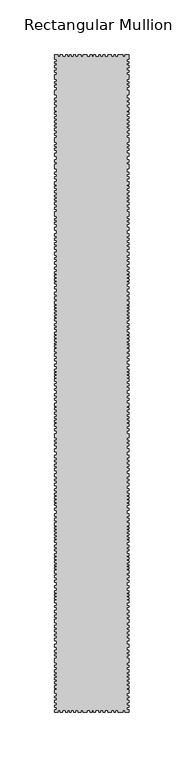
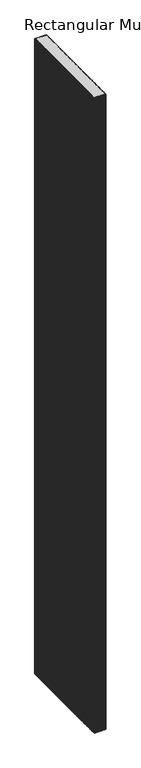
"""IFC4 building model written with IfcOpenShell, lengths in millimetres: member geometry, Rectangular Mullion : DucoSun Cubic Design louvre 600."""

from ifc_helpers import new_model, si_unit, frame, origin, place, context, project, spatial, polyline, outline, extrude, source, transform, mapped, element, save


def rectangular_mullion_b2dc265e(model_context):
    return source(origin(), model_context, "Body", "SweptSolid", [
        extrude(outline(polyline([(34.0, -597.3782451), (34.0, -600.0), (30.4544414, -600.0), (30.4544414, -598.0), (28.627942, -598.0), (28.627942, -600.0), (23.9842994, -600.0), (23.9842994, -598.0), (21.8172663, -598.0), (21.8172663, -600.0), (20.3003431, -600.0), (20.3003431, -598.0), (17.9475642, -598.0), (17.9475642, -600.0), (14.8827601, -600.0), (14.8827601, -598.0), (12.0965746, -598.0), (12.0965746, -600.0), (10.3939057, -600.0), (10.3939057, -598.0), (8.0101692, -598.0), (8.0101692, -600.0), (6.5242036, -600.0), (6.5242036, -598.0), (3.4884678, -598.0), (3.4884678, -600.0), (1.7094289, -600.0), (1.7094289, -598.0), (0.0, -598.0), (0.0, -600.0), (-1.8486488, -600.0), (-1.8486488, -598.0), (-4.2128978, -598.0), (-4.2128978, -600.0), (-7.9816511, -600.0), (-7.9816511, -598.0), (-10.0415908, -598.0), (-10.0415908, -600.0), (-12.7335575, -600.0), (-12.7335575, -598.0), (-15.0041729, -598.0), (-15.0041729, -600.0), (-16.8768453, -600.0), (-16.8768453, -598.0), (-18.9367851, -598.0), (-18.9367851, -600.0), (-20.2710642, -600.0), (-20.2710642, -598.0), (-22.3075955, -598.0), (-22.3075955, -600.0), (-23.8993671, -600.0), (-23.8993671, -598.0), (-26.9658683, -598.0), (-26.9658683, -600.0), (-28.9321744, -600.0), (-28.9321744, -598.0), (-30.8750721, -598.0), (-30.8750721, -600.0), (-34.0, -600.0), (-34.0, -597.3782451), (-32.0, -597.3782451), (-32.0, -595.4241521), (-34.0, -595.4241521), (-34.0, -593.6532553), (-32.0, -593.6532553), (-32.0, -590.9460223), (-34.0, -590.9460223), (-34.0, -588.9105087), (-32.0, -588.9105087), (-32.0, -586.7121541), (-34.0, -586.7121541), (-34.0, -585.0023227), (-32.0, -585.0023227), (-32.0, -582.3561551), (-34.0, -582.3561551), (-34.0, -579.3843053), (-32.0, -579.3843053), (-32.0, -577.8917893), (-34.0, -577.8917893), (-34.0, -575.8425117), (-32.0, -575.8425117), (-32.0, -573.8680636), (-34.0, -573.8680636), (-34.0, -572.1582322), (-32.0, -572.1582322), (-32.0, -570.0820083), (-34.0, -570.0820083), (-34.0, -568.3111116), (-32.0, -568.3111116), (-32.0, -566.4995045), (-34.0, -566.4995045), (-34.0, -565.0713495), (-32.0, -565.0713495), (-32.0, -563.4577392), (-34.0, -563.4577392), (-34.0, -561.0328231), (-32.0, -561.0328231), (-32.0, -558.5725067), (-34.0, -558.5725067), (-34.0, -557.0325964), (-32.0, -557.0325964), (-32.0, -554.5014796), (-34.0, -554.5014796), (-34.0, -550.4127524), (-32.0, -550.4127524), (-32.0, -548.4126391), (-34.0, -548.4126391), (-34.0, -546.8373286), (-32.0, -546.8373286), (-32.0, -544.9965163), (-34.0, -544.9965163), (-34.0, -543.3504053), (-32.0, -543.3504053), (-32.0, -540.3767855), (-34.0, -540.3767855), (-34.0, -537.9545244), (-32.0, -537.9545244), (-32.0, -534.5552168), (-34.0, -534.5552168), (-34.0, -532.5197032), (-32.0, -532.5197032), (-32.0, -530.239928), (-34.0, -530.239928), (-34.0, -528.6929377), (-32.0, -528.6929377), (-32.0, -526.4335177), (-34.0, -526.4335177), (-34.0, -524.5608452), (-32.0, -524.5608452), (-32.0, -522.6271073), (-34.0, -522.6271073), (-34.0, -520.5508835), (-32.0, -520.5508835), (-32.0, -518.0064916), (-34.0, -518.0064916), (-34.0, -514.9328661), (-32.0, -514.9328661), (-32.0, -512.9177077), (-34.0, -512.9177077), (-34.0, -511.4114277), (-32.0, -511.4114277), (-32.0, -508.9688114), (-34.0, -508.9688114), (-34.0, -506.7118273), (-32.0, -506.7118273), (-32.0, -503.8852623), (-34.0, -503.8852623), (-34.0, -502.4316003), (-32.0, -502.4316003), (-32.0, -499.9011516), (-34.0, -499.9011516), (-34.0, -497.8552569), (-32.0, -497.8552569), (-32.0, -496.6169522), (-34.0, -496.6169522), (-34.0, -495.0825312), (-32.0, -495.0825312), (-32.0, -493.4673512), (-34.0, -493.4673512), (-34.0, -492.0675286), (-32.0, -492.0675286), (-32.0, -490.5869469), (-34.0, -490.5869469), (-34.0, -489.1602046), (-32.0, -489.1602046), (-32.0, -486.3310055), (-34.0, -486.3310055), (-34.0, -484.2608252), (-32.0, -484.2608252), (-32.0, -481.1919832), (-34.0, -481.1919832), (-34.0, -479.2537672), (-32.0, -479.2537672), (-32.0, -476.9360418), (-34.0, -476.9360418), (-34.0, -475.0004598), (-32.0, -475.0004598), (-32.0, -472.9007258), (-34.0, -472.9007258), (-34.0, -470.1010805), (-32.0, -470.1010805), (-32.0, -468.8089365), (-34.0, -468.8089365), (-34.0, -467.3014351), (-32.0, -467.3014351), (-32.0, -466.0362108), (-34.0, -466.0362108), (-34.0, -465.0401831), (-32.0, -465.0401831), (-32.0, -463.2096458), (-34.0, -463.2096458), (-34.0, -461.6483051), (-32.0, -461.6483051), (-32.0, -460.1408038), (-34.0, -460.1408038), (-34.0, -458.6063828), (-32.0, -458.6063828), (-32.0, -457.0719618), (-34.0, -457.0719618), (-34.0, -455.0799064), (-32.0, -455.0799064), (-32.0, -452.3762692), (-34.0, -452.3762692), (-34.0, -450.8903036), (-32.0, -450.8903036), (-32.0, -449.1257194), (-34.0, -449.1257194), (-34.0, -447.6087962), (-32.0, -447.6087962), (-32.0, -444.8535683), (-34.0, -444.8535683), (-34.0, -442.7484504), (-32.0, -442.7484504), (-32.0, -441.4172729), (-34.0, -441.4172729), (-34.0, -439.9622649), (-32.0, -439.9622649), (-32.0, -438.3524688), (-34.0, -438.3524688), (-34.0, -436.8355456), (-32.0, -436.8355456), (-32.0, -435.1947919), (-34.0, -435.1947919), (-34.0, -433.9255296), (-32.0, -433.9255296), (-32.0, -432.5014792), (-34.0, -432.5014792), (-34.0, -431.1083865), (-32.0, -431.1083865), (-32.0, -429.6843361), (-34.0, -429.6843361), (-34.0, -427.0529387), (-32.0, -427.0529387), (-32.0, -424.9787784), (-34.0, -424.9787784), (-34.0, -423.0284485), (-32.0, -423.0284485), (-32.0, -420.7995001), (-34.0, -420.7995001), (-34.0, -418.8182126), (-32.0, -418.8182126), (-32.0, -415.6914933), (-34.0, -415.6914933), (-34.0, -413.4935025), (-32.0, -413.4935025), (-32.0, -410.954978), (-34.0, -410.954978), (-34.0, -409.4070971), (-32.0, -409.4070971), (-32.0, -408.1378348), (-34.0, -408.1378348), (-34.0, -406.4970812), (-32.0, -406.4970812), (-32.0, -404.8253698), (-34.0, -404.8253698), (-34.0, -403.3394042), (-32.0, -403.3394042), (-32.0, -402.0391843), (-34.0, -402.0391843), (-34.0, -400.0578969), (-32.0, -400.0578969), (-32.0, -397.6741604), (-34.0, -397.6741604), (-34.0, -396.0953219), (-32.0, -396.0953219), (-32.0, -393.3091364), (-34.0, -393.3091364), (-34.0, -391.0182728), (-32.0, -391.0182728), (-32.0, -388.572621), (-34.0, -388.572621), (-34.0, -387.1485707), (-32.0, -387.1485707), (-32.0, -385.0124951), (-34.0, -385.0124951), (-34.0, -382.1643944), (-32.0, -382.1643944), (-32.0, -379.3782089), (-34.0, -379.3782089), (-34.0, -377.427879), (-32.0, -377.427879), (-32.0, -375.4156339), (-34.0, -375.4156339), (-34.0, -373.6510498), (-32.0, -373.6510498), (-32.0, -371.1744404), (-34.0, -371.1744404), (-34.0, -369.6884748), (-32.0, -369.6884748), (-32.0, -367.5523993), (-34.0, -367.5523993), (-34.0, -365.4163237), (-32.0, -365.4163237), (-32.0, -362.1967316), (-34.0, -362.1967316), (-34.0, -359.5343765), (-32.0, -359.5343765), (-32.0, -356.7791486), (-34.0, -356.7791486), (-34.0, -355.0764797), (-32.0, -355.0764797), (-32.0, -352.9404041), (-34.0, -352.9404041), (-34.0, -351.6092266), (-32.0, -351.6092266), (-32.0, -349.5660239), (-34.0, -349.5660239), (-34.0, -345.512038), (-32.0, -345.512038), (-32.0, -343.0030092), (-34.0, -343.0030092), (-34.0, -341.3312979), (-32.0, -341.3312979), (-32.0, -339.0404342), (-34.0, -339.0404342), (-34.0, -336.5638249), (-32.0, -336.5638249), (-32.0, -335.015944), (-34.0, -335.015944), (-34.0, -333.5609361), (-32.0, -333.5609361), (-32.0, -331.5796486), (-34.0, -331.5796486), (-34.0, -330.0627254), (-32.0, -330.0627254), (-32.0, -327.8337769), (-34.0, -327.8337769), (-34.0, -326.1620656), (-32.0, -326.1620656), (-32.0, -324.0259901), (-34.0, -324.0259901), (-34.0, -322.0756602), (-32.0, -322.0756602), (-32.0, -320.6516099), (-34.0, -320.6516099), (-34.0, -317.7415939), (-32.0, -317.7415939), (-32.0, -315.2030693), (-34.0, -315.2030693), (-34.0, -313.1908242), (-32.0, -313.1908242), (-32.0, -311.2404944), (-34.0, -311.2404944), (-34.0, -309.1353764), (-32.0, -309.1353764), (-32.0, -306.2563181), (-34.0, -306.2563181), (-34.0, -304.6155644), (-32.0, -304.6155644), (-32.0, -301.7889994), (-34.0, -301.7889994), (-34.0, -300.3353374), (-32.0, -300.3353374), (-32.0, -297.8048887), (-34.0, -297.8048887), (-34.0, -295.758994), (-32.0, -295.758994), (-32.0, -294.5206893), (-34.0, -294.5206893), (-34.0, -292.9862683), (-32.0, -292.9862683), (-32.0, -291.3710883), (-34.0, -291.3710883), (-34.0, -289.9712657), (-32.0, -289.9712657), (-32.0, -288.490684), (-34.0, -288.490684), (-34.0, -287.0639417), (-32.0, -287.0639417), (-32.0, -284.2347426), (-34.0, -284.2347426), (-34.0, -282.1645623), (-32.0, -282.1645623), (-32.0, -279.0957203), (-34.0, -279.0957203), (-34.0, -277.1575043), (-32.0, -277.1575043), (-32.0, -274.8397789), (-34.0, -274.8397789), (-34.0, -272.9041969), (-32.0, -272.9041969), (-32.0, -270.8044629), (-34.0, -270.8044629), (-34.0, -268.0048176), (-32.0, -268.0048176), (-32.0, -266.7126736), (-34.0, -266.7126736), (-34.0, -265.2051722), (-32.0, -265.2051722), (-32.0, -263.9399479), (-34.0, -263.9399479), (-34.0, -262.9439202), (-32.0, -262.9439202), (-32.0, -261.1133829), (-34.0, -261.1133829), (-34.0, -259.5520422), (-32.0, -259.5520422), (-32.0, -258.0445409), (-34.0, -258.0445409), (-34.0, -256.5101199), (-32.0, -256.5101199), (-32.0, -254.9756989), (-34.0, -254.9756989), (-34.0, -252.9836435), (-32.0, -252.9836435), (-32.0, -250.2800063), (-34.0, -250.2800063), (-34.0, -248.7940407), (-32.0, -248.7940407), (-32.0, -247.0294565), (-34.0, -247.0294565), (-34.0, -245.5125333), (-32.0, -245.5125333), (-32.0, -242.7573054), (-34.0, -242.7573054), (-34.0, -240.6521875), (-32.0, -240.6521875), (-32.0, -239.32101), (-34.0, -239.32101), (-34.0, -237.866002), (-32.0, -237.866002), (-32.0, -236.2562059), (-34.0, -236.2562059), (-34.0, -234.7392827), (-32.0, -234.7392827), (-32.0, -233.098529), (-34.0, -233.098529), (-34.0, -231.8292667), (-32.0, -231.8292667), (-32.0, -230.4052163), (-34.0, -230.4052163), (-34.0, -229.0121236), (-32.0, -229.0121236), (-32.0, -227.5880732), (-34.0, -227.5880732), (-34.0, -224.9566758), (-32.0, -224.9566758), (-32.0, -222.8825155), (-34.0, -222.8825155), (-34.0, -220.9321856), (-32.0, -220.9321856), (-32.0, -218.7032372), (-34.0, -218.7032372), (-34.0, -216.7219497), (-32.0, -216.7219497), (-32.0, -213.5952304), (-34.0, -213.5952304), (-34.0, -211.3972396), (-32.0, -211.3972396), (-32.0, -208.8587151), (-34.0, -208.8587151), (-34.0, -207.3108342), (-32.0, -207.3108342), (-32.0, -206.0415719), (-34.0, -206.0415719), (-34.0, -204.4008183), (-32.0, -204.4008183), (-32.0, -202.7291069), (-34.0, -202.7291069), (-34.0, -201.2431413), (-32.0, -201.2431413), (-32.0, -199.9429214), (-34.0, -199.9429214), (-34.0, -197.961634), (-32.0, -197.961634), (-32.0, -195.5778975), (-34.0, -195.5778975), (-34.0, -193.999059), (-32.0, -193.999059), (-32.0, -191.2128735), (-34.0, -191.2128735), (-34.0, -188.9220099), (-32.0, -188.9220099), (-32.0, -186.4763581), (-34.0, -186.4763581), (-34.0, -185.0523078), (-32.0, -185.0523078), (-32.0, -182.9162322), (-34.0, -182.9162322), (-34.0, -180.0681315), (-32.0, -180.0681315), (-32.0, -177.281946), (-34.0, -177.281946), (-34.0, -175.3316161), (-32.0, -175.3316161), (-32.0, -173.319371), (-34.0, -173.319371), (-34.0, -171.5547869), (-32.0, -171.5547869), (-32.0, -169.0781775), (-34.0, -169.0781775), (-34.0, -167.5922119), (-32.0, -167.5922119), (-32.0, -165.4561364), (-34.0, -165.4561364), (-34.0, -163.3200608), (-32.0, -163.3200608), (-32.0, -160.1004687), (-34.0, -160.1004687), (-34.0, -157.4381136), (-32.0, -157.4381136), (-32.0, -154.6828857), (-34.0, -154.6828857), (-34.0, -152.9802168), (-32.0, -152.9802168), (-32.0, -150.8441412), (-34.0, -150.8441412), (-34.0, -149.5129637), (-32.0, -149.5129637), (-32.0, -147.469761), (-34.0, -147.469761), (-34.0, -143.4157751), (-32.0, -143.4157751), (-32.0, -140.9067463), (-34.0, -140.9067463), (-34.0, -139.235035), (-32.0, -139.235035), (-32.0, -136.9441713), (-34.0, -136.9441713), (-34.0, -134.467562), (-32.0, -134.467562), (-32.0, -132.9196811), (-34.0, -132.9196811), (-34.0, -131.4646731), (-32.0, -131.4646731), (-32.0, -129.4833857), (-34.0, -129.4833857), (-34.0, -127.9664625), (-32.0, -127.9664625), (-32.0, -125.737514), (-34.0, -125.737514), (-34.0, -124.0658027), (-32.0, -124.0658027), (-32.0, -121.9297272), (-34.0, -121.9297272), (-34.0, -119.9793973), (-32.0, -119.9793973), (-32.0, -118.555347), (-34.0, -118.555347), (-34.0, -115.645331), (-32.0, -115.645331), (-32.0, -113.1068064), (-34.0, -113.1068064), (-34.0, -111.0945613), (-32.0, -111.0945613), (-32.0, -109.1442315), (-34.0, -109.1442315), (-34.0, -107.0391135), (-32.0, -107.0391135), (-32.0, -104.0), (-34.0, -104.0), (-34.0, -100.0), (-32.0, -100.0), (-32.0, -97.8639244), (-34.0, -97.8639244), (-34.0, -95.7278489), (-32.0, -95.7278489), (-32.0, -92.5082567), (-34.0, -92.5082567), (-34.0, -89.8459017), (-32.0, -89.8459017), (-32.0, -87.0906738), (-34.0, -87.0906738), (-34.0, -85.3880049), (-32.0, -85.3880049), (-32.0, -83.2519293), (-34.0, -83.2519293), (-34.0, -81.9207518), (-32.0, -81.9207518), (-32.0, -79.8775491), (-34.0, -79.8775491), (-34.0, -75.8235632), (-32.0, -75.8235632), (-32.0, -73.3145343), (-34.0, -73.3145343), (-34.0, -71.642823), (-32.0, -71.642823), (-32.0, -69.3519594), (-34.0, -69.3519594), (-34.0, -66.8753501), (-32.0, -66.8753501), (-32.0, -65.3274692), (-34.0, -65.3274692), (-34.0, -63.8724612), (-32.0, -63.8724612), (-32.0, -61.8911738), (-34.0, -61.8911738), (-34.0, -60.3742505), (-32.0, -60.3742505), (-32.0, -58.1453021), (-34.0, -58.1453021), (-34.0, -56.4735908), (-32.0, -56.4735908), (-32.0, -54.3375153), (-34.0, -54.3375153), (-34.0, -52.3871854), (-32.0, -52.3871854), (-32.0, -50.963135), (-34.0, -50.963135), (-34.0, -48.0531191), (-32.0, -48.0531191), (-32.0, -45.5145945), (-34.0, -45.5145945), (-34.0, -43.5023494), (-32.0, -43.5023494), (-32.0, -41.5520195), (-34.0, -41.5520195), (-34.0, -39.4469016), (-32.0, -39.4469016), (-32.0, -36.4077881), (-34.0, -36.4077881), (-34.0, -32.4077881), (-32.0, -32.4077881), (-32.0, -29.6525602), (-34.0, -29.6525602), (-34.0, -27.9498913), (-32.0, -27.9498913), (-32.0, -25.8138157), (-34.0, -25.8138157), (-34.0, -24.4826382), (-32.0, -24.4826382), (-32.0, -22.4394355), (-34.0, -22.4394355), (-34.0, -18.3854496), (-32.0, -18.3854496), (-32.0, -15.8764207), (-34.0, -15.8764207), (-34.0, -14.2047094), (-32.0, -14.2047094), (-32.0, -11.9138458), (-34.0, -11.9138458), (-34.0, -9.4372364), (-32.0, -9.4372364), (-32.0, -7.8893556), (-34.0, -7.8893556), (-34.0, -6.4343476), (-32.0, -6.4343476), (-32.0, -4.0), (-34.0, -4.0), (-34.0, 0.0), (-30.8750721, 0.0), (-30.8750721, -2.0), (-28.9321744, -2.0), (-28.9321744, 0.0), (-26.9658683, 0.0), (-26.9658683, -2.0), (-23.8993671, -2.0), (-23.8993671, 0.0), (-22.3075955, 0.0), (-22.3075955, -2.0), (-20.2710642, -2.0), (-20.2710642, 0.0), (-18.9367851, 0.0), (-18.9367851, -2.0), (-16.8768453, -2.0), (-16.8768453, 0.0), (-15.0041729, 0.0), (-15.0041729, -2.0), (-12.7335575, -2.0), (-12.7335575, 0.0), (-10.0415908, 0.0), (-10.0415908, -2.0), (-7.9816511, -2.0), (-7.9816511, 0.0), (-4.2128978, 0.0), (-4.2128978, -2.0), (-1.8486488, -2.0), (-1.8486488, 0.0), (0.0, 0.0), (0.0, -2.0), (1.7094289, -2.0), (1.7094289, 0.0), (3.4884678, 0.0), (3.4884678, -2.0), (6.5242036, -2.0), (6.5242036, 0.0), (8.0101692, 0.0), (8.0101692, -2.0), (10.3939057, -2.0), (10.3939057, 0.0), (12.0965746, 0.0), (12.0965746, -2.0), (14.8827601, -2.0), (14.8827601, 0.0), (17.9475642, 0.0), (17.9475642, -2.0), (20.3003431, -2.0), (20.3003431, 0.0), (21.8172663, 0.0), (21.8172663, -2.0), (23.9842994, -2.0), (23.9842994, 0.0), (28.627942, 0.0), (28.627942, -2.0), (30.4544414, -2.0), (30.4544414, 0.0), (34.0, 0.0), (34.0, -4.0), (32.0, -4.0), (32.0, -6.4343476), (34.0, -6.4343476), (34.0, -7.8893556), (32.0, -7.8893556), (32.0, -9.4372364), (34.0, -9.4372364), (34.0, -11.9138458), (32.0, -11.9138458), (32.0, -14.2047094), (34.0, -14.2047094), (34.0, -15.8764207), (32.0, -15.8764207), (32.0, -18.3854496), (34.0, -18.3854496), (34.0, -22.4394355), (32.0, -22.4394355), (32.0, -24.4826382), (34.0, -24.4826382), (34.0, -25.8138157), (32.0, -25.8138157), (32.0, -27.9498913), (34.0, -27.9498913), (34.0, -29.6525602), (32.0, -29.6525602), (32.0, -32.4077881), (34.0, -32.4077881), (34.0, -36.4077881), (32.0, -36.4077881), (32.0, -39.4469016), (34.0, -39.4469016), (34.0, -41.5520195), (32.0, -41.5520195), (32.0, -43.5023494), (34.0, -43.5023494), (34.0, -45.5145945), (32.0, -45.5145945), (32.0, -48.0531191), (34.0, -48.0531191), (34.0, -50.963135), (32.0, -50.963135), (32.0, -52.3871854), (34.0, -52.3871854), (34.0, -54.3375153), (32.0, -54.3375153), (32.0, -56.4735908), (34.0, -56.4735908), (34.0, -58.1453021), (32.0, -58.1453021), (32.0, -60.3742505), (34.0, -60.3742505), (34.0, -61.8911738), (32.0, -61.8911738), (32.0, -63.8724612), (34.0, -63.8724612), (34.0, -65.3274692), (32.0, -65.3274692), (32.0, -66.8753501), (34.0, -66.8753501), (34.0, -69.3519594), (32.0, -69.3519594), (32.0, -71.642823), (34.0, -71.642823), (34.0, -73.3145343), (32.0, -73.3145343), (32.0, -75.8235632), (34.0, -75.8235632), (34.0, -79.8775491), (32.0, -79.8775491), (32.0, -81.9207518), (34.0, -81.9207518), (34.0, -83.2519293), (32.0, -83.2519293), (32.0, -85.3880049), (34.0, -85.3880049), (34.0, -87.0906738), (32.0, -87.0906738), (32.0, -89.8459017), (34.0, -89.8459017), (34.0, -92.5082567), (32.0, -92.5082567), (32.0, -95.7278489), (34.0, -95.7278489), (34.0, -97.8639244), (32.0, -97.8639244), (32.0, -100.0), (34.0, -100.0), (34.0, -104.0), (32.0, -104.0), (32.0, -107.0391135), (34.0, -107.0391135), (34.0, -109.1442315), (32.0, -109.1442315), (32.0, -111.0945613), (34.0, -111.0945613), (34.0, -113.1068064), (32.0, -113.1068064), (32.0, -115.645331), (34.0, -115.645331), (34.0, -118.555347), (32.0, -118.555347), (32.0, -119.9793973), (34.0, -119.9793973), (34.0, -121.9297272), (32.0, -121.9297272), (32.0, -124.0658027), (34.0, -124.0658027), (34.0, -125.737514), (32.0, -125.737514), (32.0, -127.9664625), (34.0, -127.9664625), (34.0, -129.4833857), (32.0, -129.4833857), (32.0, -131.4646731), (34.0, -131.4646731), (34.0, -132.9196811), (32.0, -132.9196811), (32.0, -134.467562), (34.0, -134.467562), (34.0, -136.9441713), (32.0, -136.9441713), (32.0, -139.235035), (34.0, -139.235035), (34.0, -140.9067463), (32.0, -140.9067463), (32.0, -143.4157751), (34.0, -143.4157751), (34.0, -147.469761), (32.0, -147.469761), (32.0, -149.5129637), (34.0, -149.5129637), (34.0, -150.8441412), (32.0, -150.8441412), (32.0, -152.9802168), (34.0, -152.9802168), (34.0, -154.6828857), (32.0, -154.6828857), (32.0, -157.4381136), (34.0, -157.4381136), (34.0, -160.1004687), (32.0, -160.1004687), (32.0, -163.3200608), (34.0, -163.3200608), (34.0, -165.4561364), (32.0, -165.4561364), (32.0, -167.5922119), (34.0, -167.5922119), (34.0, -169.0781775), (32.0, -169.0781775), (32.0, -171.5547869), (34.0, -171.5547869), (34.0, -173.319371), (32.0, -173.319371), (32.0, -175.3316161), (34.0, -175.3316161), (34.0, -177.281946), (32.0, -177.281946), (32.0, -180.0681315), (34.0, -180.0681315), (34.0, -182.9162322), (32.0, -182.9162322), (32.0, -185.0523078), (34.0, -185.0523078), (34.0, -186.4763581), (32.0, -186.4763581), (32.0, -188.9220099), (34.0, -188.9220099), (34.0, -191.2128735), (32.0, -191.2128735), (32.0, -193.999059), (34.0, -193.999059), (34.0, -195.5778975), (32.0, -195.5778975), (32.0, -197.961634), (34.0, -197.961634), (34.0, -199.9429214), (32.0, -199.9429214), (32.0, -201.2431413), (34.0, -201.2431413), (34.0, -202.7291069), (32.0, -202.7291069), (32.0, -204.4008183), (34.0, -204.4008183), (34.0, -206.0415719), (32.0, -206.0415719), (32.0, -207.3108342), (34.0, -207.3108342), (34.0, -208.8587151), (32.0, -208.8587151), (32.0, -211.3972396), (34.0, -211.3972396), (34.0, -213.5952304), (32.0, -213.5952304), (32.0, -216.7219497), (34.0, -216.7219497), (34.0, -218.7032372), (32.0, -218.7032372), (32.0, -220.9321856), (34.0, -220.9321856), (34.0, -222.8825155), (32.0, -222.8825155), (32.0, -224.9566758), (34.0, -224.9566758), (34.0, -227.5880732), (32.0, -227.5880732), (32.0, -229.0121236), (34.0, -229.0121236), (34.0, -230.4052163), (32.0, -230.4052163), (32.0, -231.8292667), (34.0, -231.8292667), (34.0, -233.098529), (32.0, -233.098529), (32.0, -234.7392827), (34.0, -234.7392827), (34.0, -236.2562059), (32.0, -236.2562059), (32.0, -237.866002), (34.0, -237.866002), (34.0, -239.32101), (32.0, -239.32101), (32.0, -240.6521875), (34.0, -240.6521875), (34.0, -242.7573054), (32.0, -242.7573054), (32.0, -245.5125333), (34.0, -245.5125333), (34.0, -247.0294565), (32.0, -247.0294565), (32.0, -248.7940407), (34.0, -248.7940407), (34.0, -250.2800063), (32.0, -250.2800063), (32.0, -252.9836435), (34.0, -252.9836435), (34.0, -254.9756989), (32.0, -254.9756989), (32.0, -256.5101199), (34.0, -256.5101199), (34.0, -258.0445409), (32.0, -258.0445409), (32.0, -259.5520422), (34.0, -259.5520422), (34.0, -261.1133829), (32.0, -261.1133829), (32.0, -262.9439202), (34.0, -262.9439202), (34.0, -263.9399479), (32.0, -263.9399479), (32.0, -265.2051722), (34.0, -265.2051722), (34.0, -266.7126736), (32.0, -266.7126736), (32.0, -268.0048176), (34.0, -268.0048176), (34.0, -270.8044629), (32.0, -270.8044629), (32.0, -272.9041969), (34.0, -272.9041969), (34.0, -274.8397789), (32.0, -274.8397789), (32.0, -277.1575043), (34.0, -277.1575043), (34.0, -279.0957203), (32.0, -279.0957203), (32.0, -282.1645623), (34.0, -282.1645623), (34.0, -284.2347426), (32.0, -284.2347426), (32.0, -287.0639417), (34.0, -287.0639417), (34.0, -288.490684), (32.0, -288.490684), (32.0, -289.9712657), (34.0, -289.9712657), (34.0, -291.3710883), (32.0, -291.3710883), (32.0, -292.9862683), (34.0, -292.9862683), (34.0, -294.5206893), (32.0, -294.5206893), (32.0, -295.758994), (34.0, -295.758994), (34.0, -297.8048887), (32.0, -297.8048887), (32.0, -300.3353374), (34.0, -300.3353374), (34.0, -301.7889994), (32.0, -301.7889994), (32.0, -303.7186411), (34.0, -303.7186411), (34.0, -306.2563181), (32.0, -306.2563181), (32.0, -309.1353764), (34.0, -309.1353764), (34.0, -311.2404944), (32.0, -311.2404944), (32.0, -313.1908242), (34.0, -313.1908242), (34.0, -315.2030693), (32.0, -315.2030693), (32.0, -317.7415939), (34.0, -317.7415939), (34.0, -320.6516099), (32.0, -320.6516099), (32.0, -322.0756602), (34.0, -322.0756602), (34.0, -324.0259901), (32.0, -324.0259901), (32.0, -326.1620656), (34.0, -326.1620656), (34.0, -327.8337769), (32.0, -327.8337769), (32.0, -330.0627254), (34.0, -330.0627254), (34.0, -331.5796486), (32.0, -331.5796486), (32.0, -333.5609361), (34.0, -333.5609361), (34.0, -335.015944), (32.0, -335.015944), (32.0, -336.5638249), (34.0, -336.5638249), (34.0, -339.0404342), (32.0, -339.0404342), (32.0, -341.3312979), (34.0, -341.3312979), (34.0, -343.0030092), (32.0, -343.0030092), (32.0, -345.512038), (34.0, -345.512038), (34.0, -349.5660239), (32.0, -349.5660239), (32.0, -351.6092266), (34.0, -351.6092266), (34.0, -352.9404041), (32.0, -352.9404041), (32.0, -355.0764797), (34.0, -355.0764797), (34.0, -356.7791486), (32.0, -356.7791486), (32.0, -359.5343765), (34.0, -359.5343765), (34.0, -362.1967316), (32.0, -362.1967316), (32.0, -365.4163237), (34.0, -365.4163237), (34.0, -367.5523993), (32.0, -367.5523993), (32.0, -369.6884748), (34.0, -369.6884748), (34.0, -371.1744404), (32.0, -371.1744404), (32.0, -373.6510498), (34.0, -373.6510498), (34.0, -375.4156339), (32.0, -375.4156339), (32.0, -377.427879), (34.0, -377.427879), (34.0, -379.3782089), (32.0, -379.3782089), (32.0, -382.1643944), (34.0, -382.1643944), (34.0, -385.0124951), (32.0, -385.0124951), (32.0, -387.1485707), (34.0, -387.1485707), (34.0, -388.572621), (32.0, -388.572621), (32.0, -391.0182728), (34.0, -391.0182728), (34.0, -393.3091364), (32.0, -393.3091364), (32.0, -396.0953219), (34.0, -396.0953219), (34.0, -397.6741604), (32.0, -397.6741604), (32.0, -400.0578969), (34.0, -400.0578969), (34.0, -402.0391843), (32.0, -402.0391843), (32.0, -403.3394042), (34.0, -403.3394042), (34.0, -404.8253698), (32.0, -404.8253698), (32.0, -406.4970812), (34.0, -406.4970812), (34.0, -408.1378348), (32.0, -408.1378348), (32.0, -409.4070971), (34.0, -409.4070971), (34.0, -410.954978), (32.0, -410.954978), (32.0, -413.4935025), (34.0, -413.4935025), (34.0, -415.6914933), (32.0, -415.6914933), (32.0, -418.8182126), (34.0, -418.8182126), (34.0, -420.7995001), (32.0, -420.7995001), (32.0, -423.0284485), (34.0, -423.0284485), (34.0, -424.9787784), (32.0, -424.9787784), (32.0, -427.0529387), (34.0, -427.0529387), (34.0, -429.6843361), (32.0, -429.6843361), (32.0, -431.1083865), (34.0, -431.1083865), (34.0, -432.5014792), (32.0, -432.5014792), (32.0, -433.9255296), (34.0, -433.9255296), (34.0, -435.1947919), (32.0, -435.1947919), (32.0, -436.8355456), (34.0, -436.8355456), (34.0, -438.3524688), (32.0, -438.3524688), (32.0, -439.9622649), (34.0, -439.9622649), (34.0, -441.4172729), (32.0, -441.4172729), (32.0, -442.7484504), (34.0, -442.7484504), (34.0, -444.8535683), (32.0, -444.8535683), (32.0, -447.6087962), (34.0, -447.6087962), (34.0, -449.1257194), (32.0, -449.1257194), (32.0, -450.8903036), (34.0, -450.8903036), (34.0, -452.3762692), (32.0, -452.3762692), (32.0, -455.0799064), (34.0, -455.0799064), (34.0, -457.0719618), (32.0, -457.0719618), (32.0, -458.6063828), (34.0, -458.6063828), (34.0, -460.1408038), (32.0, -460.1408038), (32.0, -461.6483051), (34.0, -461.6483051), (34.0, -463.2096458), (32.0, -463.2096458), (32.0, -465.0401831), (34.0, -465.0401831), (34.0, -466.0362108), (32.0, -466.0362108), (32.0, -467.3014351), (34.0, -467.3014351), (34.0, -468.8089365), (32.0, -468.8089365), (32.0, -470.1010805), (34.0, -470.1010805), (34.0, -472.9007258), (32.0, -472.9007258), (32.0, -475.0004598), (34.0, -475.0004598), (34.0, -476.9360418), (32.0, -476.9360418), (32.0, -479.2537672), (34.0, -479.2537672), (34.0, -481.1919832), (32.0, -481.1919832), (32.0, -484.2608252), (34.0, -484.2608252), (34.0, -486.3310055), (32.0, -486.3310055), (32.0, -489.1602046), (34.0, -489.1602046), (34.0, -490.5869469), (32.0, -490.5869469), (32.0, -492.0675286), (34.0, -492.0675286), (34.0, -493.4673512), (32.0, -493.4673512), (32.0, -495.0825312), (34.0, -495.0825312), (34.0, -496.6169522), (32.0, -496.6169522), (32.0, -497.8552569), (34.0, -497.8552569), (34.0, -499.9011516), (32.0, -499.9011516), (32.0, -502.4316003), (34.0, -502.4316003), (34.0, -503.8852623), (32.0, -503.8852623), (32.0, -506.7118273), (34.0, -506.7118273), (34.0, -508.9688114), (32.0, -508.9688114), (32.0, -511.4114277), (34.0, -511.4114277), (34.0, -512.9177077), (32.0, -512.9177077), (32.0, -514.9328661), (34.0, -514.9328661), (34.0, -518.0064916), (32.0, -518.0064916), (32.0, -520.5508835), (34.0, -520.5508835), (34.0, -522.6271073), (32.0, -522.6271073), (32.0, -524.5608452), (34.0, -524.5608452), (34.0, -526.4335177), (32.0, -526.4335177), (32.0, -528.6929377), (34.0, -528.6929377), (34.0, -530.239928), (32.0, -530.239928), (32.0, -532.5197032), (34.0, -532.5197032), (34.0, -534.5552168), (32.0, -534.5552168), (32.0, -537.9545244), (34.0, -537.9545244), (34.0, -540.3767855), (32.0, -540.3767855), (32.0, -543.3504053), (34.0, -543.3504053), (34.0, -544.9965163), (32.0, -544.9965163), (32.0, -546.8373286), (34.0, -546.8373286), (34.0, -548.4126391), (32.0, -548.4126391), (32.0, -550.4127524), (34.0, -550.4127524), (34.0, -554.5014796), (32.0, -554.5014796), (32.0, -557.0325964), (34.0, -557.0325964), (34.0, -558.5725067), (32.0, -558.5725067), (32.0, -561.0328231), (34.0, -561.0328231), (34.0, -563.4577392), (32.0, -563.4577392), (32.0, -565.0713495), (34.0, -565.0713495), (34.0, -566.4995045), (32.0, -566.4995045), (32.0, -568.3111116), (34.0, -568.3111116), (34.0, -570.0820083), (32.0, -570.0820083), (32.0, -572.1582322), (34.0, -572.1582322), (34.0, -573.8680636), (32.0, -573.8680636), (32.0, -575.8425117), (34.0, -575.8425117), (34.0, -577.8917893), (32.0, -577.8917893), (32.0, -579.3843053), (34.0, -579.3843053), (34.0, -582.3561551), (32.0, -582.3561551), (32.0, -585.0023227), (34.0, -585.0023227), (34.0, -586.7121541), (32.0, -586.7121541), (32.0, -588.9105087), (34.0, -588.9105087), (34.0, -590.9460223), (32.0, -590.9460223), (32.0, -593.6532553), (34.0, -593.6532553), (34.0, -595.4241521), (32.0, -595.4241521), (32.0, -597.3782451), (34.0, -597.3782451)])), frame((0.0, 0.0, -3900.0), z_axis=(0.0, 0.0, 1.0), x_axis=(1.0, 0.0, 0.0)), (0.0, 0.0, 1.0), 3900.0),
    ])


if __name__ == "__main__":
    model = new_model("IFC4")
    model_context = context("Model", 3, world=origin())
    ifc_project = project(units=[si_unit("LENGTHUNIT", "METRE", prefix="MILLI")], contexts=[model_context])
    site = spatial("IfcSite", under=ifc_project)
    building = spatial("IfcBuilding", under=site)
    placement = place(None, origin())
    rectangular_mullion_shape = rectangular_mullion_b2dc265e(model_context)
    element("IfcMember", 1, ObjectType="Rectangular Mullion : DucoSun Cubic Design louvre 600", at=placement, inside=building, context=model_context, shape_type="MappedRepresentation", body=[
        mapped(rectangular_mullion_shape, transform((0.0, 0.0, 0.0), x_axis=(1.0, 0.0, 0.0), y_axis=(0.0, 1.0, 0.0), z_axis=(0.0, 0.0, 1.0))),
    ])
    save(model, "model.ifc")
